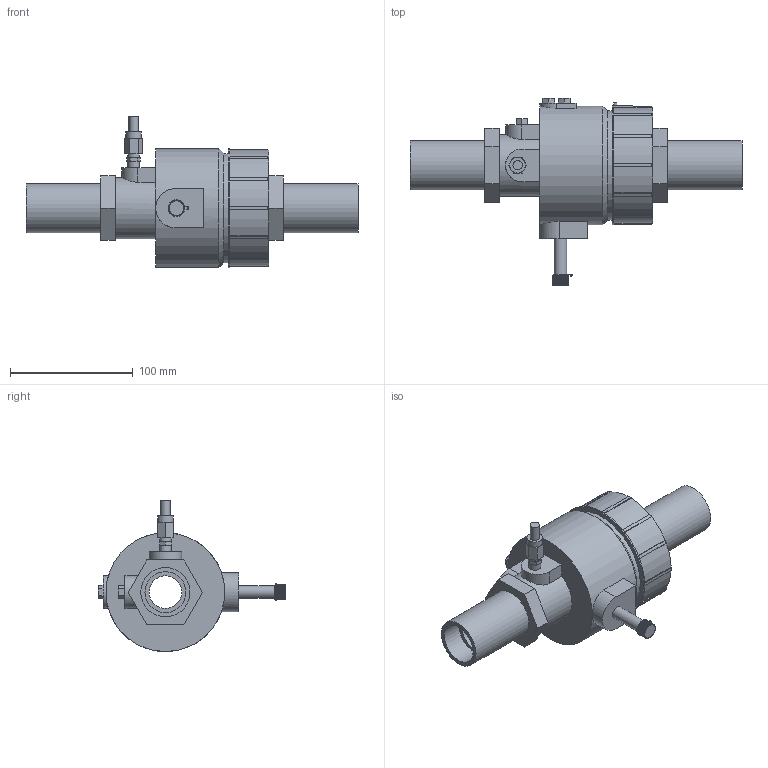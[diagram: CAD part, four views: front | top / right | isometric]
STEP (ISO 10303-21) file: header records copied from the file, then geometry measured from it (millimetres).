
FILE_DESCRIPTION(/* description */ ('VIC CONTROLLER DIFFERENTIAL PRESSURE TA SERIES 7DA (FPT)','CAx-IF Rec.Pracs.---Representation and Presentation of Product Manufacturing Information (PMI)---4.0---2014-10-13'),/* implementation_level */ '2;1');
FILE_NAME(/* name */ 'C:\Users\Vjadhav\Desktop\CAD for Inventor\1\7DA\STEP\Victaulic_IPS_Controller Differential Pressure_TA Series 7DA (FPT)\Victaulic_IPS_Controller Differential Pressure_TA Series 7DA (FPT)_1 (25).stp',/* time_stamp */ '2021-08-30T15:53:18+05:00',/* author */ ('Vjadhav'),/* organization */ ('Victaulic'),/* preprocessor_version */ 'ST-DEVELOPER v17.2',/* originating_system */ 'Autodesk Inventor 2019',/* authorisation */ '');
FILE_SCHEMA (('AP242_MANAGED_MODEL_BASED_3D_ENGINEERING_MIM_LF { 1 0 10303 442 1 1 4 }'));
Length unit declared in the file: inch
Products named in the file (1): 7DA-01.0
Bounding box: 271.02 x 152.65 x 123.43 mm (x, y, z)
Volume: 776456.8 mm3; surface area: 112412.2 mm2
Topology: 1 solids, 1 shells, 371 faces, 1039 edges, 692 vertices
Faces by surface type: plane 201, cylinder 122, torus 35, cone 13
Full cylindrical faces by diameter (mm): 2.54 x1, 7.62 x1, 9.525 x2, 10.16 x2, 12.7 x1, 26.645 x1, 33.401 x2, 40.157 x2, 50.033 x2, 61.341 x1, 63.881 x1, 89.275 x1, 91.948 x1, 96.895 x1
Entity records: 13120 total; most frequent: CARTESIAN_POINT 2900, ORIENTED_EDGE 2078, DIRECTION 2042, EDGE_CURVE 1039, AXIS2_PLACEMENT_3D 718, VERTEX_POINT 692, LINE 606, VECTOR 606
